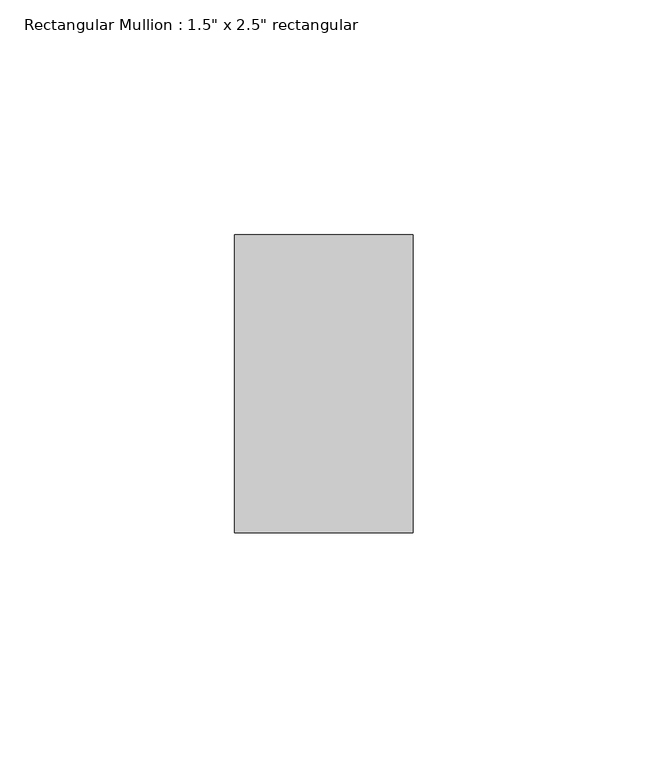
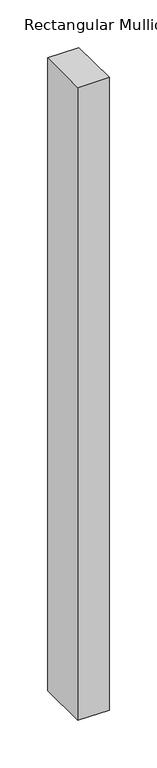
"""IFC4 building model written with IfcOpenShell, lengths in millimetres: member geometry."""

from ifc_helpers import new_model, si_unit, frame, origin, place, context, project, spatial, polyline, outline, extrude, source, transform, mapped, element, save


def member_2046a979(model_context):
    return source(origin(), model_context, "Body", "SweptSolid", [
        extrude(outline(polyline([(0.0, 31.75), (0.0, -31.75), (-38.1, -31.75), (-38.1, 31.75), (0.0, 31.75)])), frame((0.0, 0.0, -812.8), z_axis=(0.0, 0.0, 1.0), x_axis=(1.0, 0.0, 0.0)), (0.0, 0.0, 1.0), 812.8),
    ])


if __name__ == "__main__":
    model = new_model("IFC4")
    model_context = context("Model", 3, world=origin())
    ifc_project = project(units=[si_unit("LENGTHUNIT", "METRE", prefix="MILLI")], contexts=[model_context])
    site = spatial("IfcSite", under=ifc_project)
    building = spatial("IfcBuilding", under=site)
    placement = place(None, origin())
    member_shape = member_2046a979(model_context)
    element("IfcMember", 1, ObjectType="Rectangular Mullion : 1.5\" x 2.5\" rectangular", at=placement, inside=building, context=model_context, shape_type="MappedRepresentation", body=[
        mapped(member_shape, transform((0.0, 0.0, 0.0), x_axis=(1.0, 0.0, 0.0), y_axis=(0.0, 1.0, 0.0), z_axis=(0.0, 0.0, 1.0))),
    ])
    save(model, "model.ifc")
